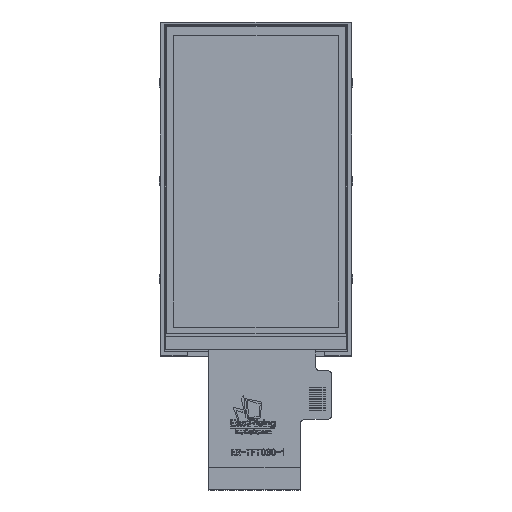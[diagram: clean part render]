
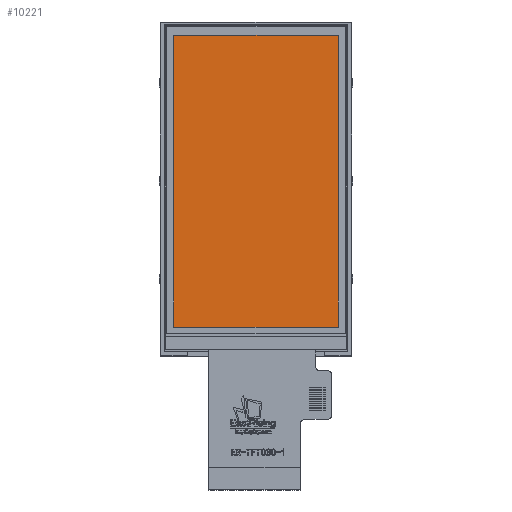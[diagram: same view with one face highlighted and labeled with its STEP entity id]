
A CAD part, top view. The second image highlights one B-rep face of the part: STEP entity #10221.
In plain terms, the highlighted planar face has unit normal (0, 0, 1).
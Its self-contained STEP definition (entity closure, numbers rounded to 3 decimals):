
#212 = DIRECTION ( 'NONE',  ( 0., 1., 0. ) ) ;
#1787 = DIRECTION ( 'NONE',  ( 1., 0., 0. ) ) ;
#2183 = VERTEX_POINT ( 'NONE', #24628 ) ;
#2820 = EDGE_CURVE ( 'NONE', #2183, #30746, #17564, .T. ) ;
#2911 = EDGE_CURVE ( 'NONE', #7886, #2183, #27339, .T. ) ;
#4823 = FACE_OUTER_BOUND ( 'NONE', #8978, .T. ) ;
#6739 = CARTESIAN_POINT ( 'NONE',  ( 0., -30.875, 2.1 ) ) ;
#7886 = VERTEX_POINT ( 'NONE', #32500 ) ;
#8371 = LINE ( 'NONE', #19435, #24470 ) ;
#8978 = EDGE_LOOP ( 'NONE', ( #35214, #19642, #33041, #10571 ) ) ;
#9389 = EDGE_CURVE ( 'NONE', #30746, #21344, #8371, .T. ) ;
#10221 = ADVANCED_FACE ( 'NONE', ( #4823 ), #32300, .T. ) ;
#10380 = VECTOR ( 'NONE', #212, 1000. ) ;
#10571 = ORIENTED_EDGE ( 'NONE', *, *, #2820, .F. ) ;
#11251 = VECTOR ( 'NONE', #28141, 1000. ) ;
#15978 = AXIS2_PLACEMENT_3D ( 'NONE', #26210, #20877, #1787 ) ;
#16127 = CARTESIAN_POINT ( 'NONE',  ( 18.36, 34.405, 2.1 ) ) ;
#17564 = LINE ( 'NONE', #23941, #29179 ) ;
#18798 = DIRECTION ( 'NONE',  ( 1., 0., 0. ) ) ;
#19435 = CARTESIAN_POINT ( 'NONE',  ( 18.36, 0., 2.1 ) ) ;
#19642 = ORIENTED_EDGE ( 'NONE', *, *, #32448, .F. ) ;
#19662 = CARTESIAN_POINT ( 'NONE',  ( -18.36, 0., 2.1 ) ) ;
#20877 = DIRECTION ( 'NONE',  ( 0., 0., 1. ) ) ;
#21344 = VERTEX_POINT ( 'NONE', #34939 ) ;
#23941 = CARTESIAN_POINT ( 'NONE',  ( 0., 34.405, 2.1 ) ) ;
#24470 = VECTOR ( 'NONE', #35130, 1000. ) ;
#24628 = CARTESIAN_POINT ( 'NONE',  ( -18.36, 34.405, 2.1 ) ) ;
#26210 = CARTESIAN_POINT ( 'NONE',  ( 0., 0., 2.1 ) ) ;
#27339 = LINE ( 'NONE', #19662, #10380 ) ;
#28141 = DIRECTION ( 'NONE',  ( -1., 0., 0. ) ) ;
#29179 = VECTOR ( 'NONE', #18798, 1000. ) ;
#30746 = VERTEX_POINT ( 'NONE', #16127 ) ;
#32300 = PLANE ( 'NONE',  #15978 ) ;
#32448 = EDGE_CURVE ( 'NONE', #21344, #7886, #33315, .T. ) ;
#32500 = CARTESIAN_POINT ( 'NONE',  ( -18.36, -30.875, 2.1 ) ) ;
#33041 = ORIENTED_EDGE ( 'NONE', *, *, #9389, .F. ) ;
#33315 = LINE ( 'NONE', #6739, #11251 ) ;
#34939 = CARTESIAN_POINT ( 'NONE',  ( 18.36, -30.875, 2.1 ) ) ;
#35130 = DIRECTION ( 'NONE',  ( 0., -1., 0. ) ) ;
#35214 = ORIENTED_EDGE ( 'NONE', *, *, #2911, .F. ) ;
